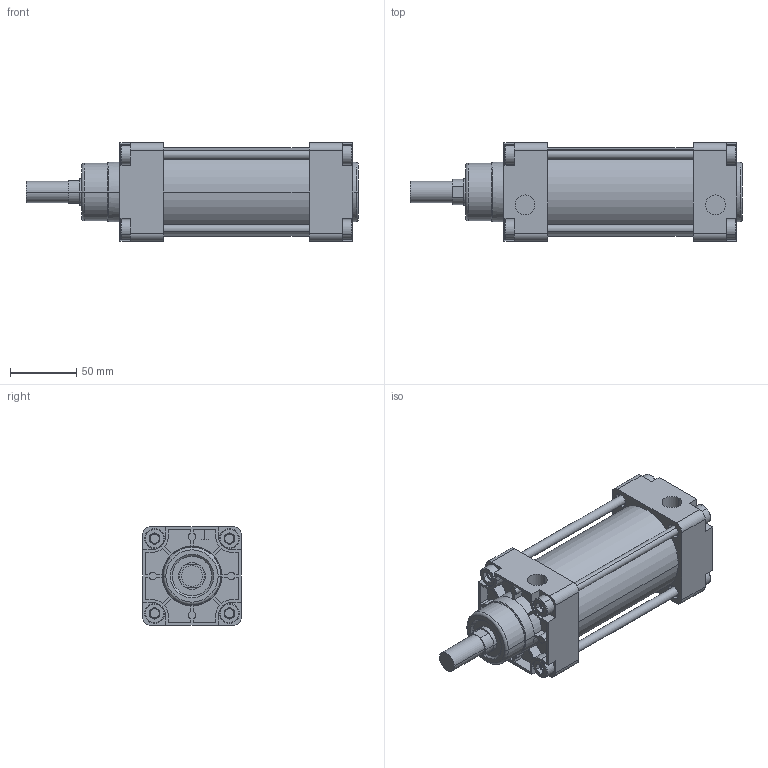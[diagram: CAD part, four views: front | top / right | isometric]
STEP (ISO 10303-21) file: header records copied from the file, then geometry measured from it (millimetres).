
FILE_DESCRIPTION(('CATIA V5 STEP Exchange'),'2;1');
FILE_NAME('D:\stp file for catalog\PNC\63\PNC 63-20-50.stp','2015-10-13T07:04:51+00:00',('none'),('none'),'Version 5-6 Release 2012','CATIA V5 STEP AP203','none');
FILE_SCHEMA(('CONFIG_CONTROL_DESIGN'));
Length unit declared in the file: millimetre
Products named in the file (1): PNC 63-20-50-00
Assembly tree (2 placements, depth 2):
  PNC 63-20-50-00
    #58
    #15151
Bounding box: 251 x 74.5 x 74.5 mm (x, y, z)
Volume: 612272.7 mm3; surface area: 150981.4 mm2
Topology: 6 solids, 6 shells, 572 faces, 1446 edges, 930 vertices
Faces by surface type: plane 356, cylinder 154, torus 26, cone 20, extrusion 16
Entity records: 15575 total; most frequent: CARTESIAN_POINT 3056, ORIENTED_EDGE 2892, DIRECTION 1926, EDGE_CURVE 1446, VECTOR 930, VERTEX_POINT 930, LINE 914, AXIS2_PLACEMENT_3D 732
